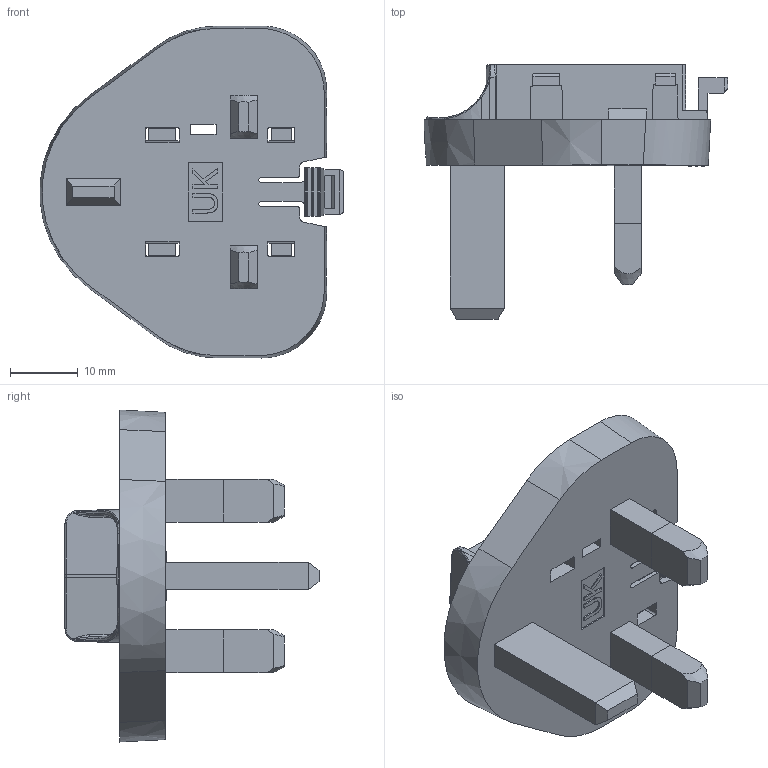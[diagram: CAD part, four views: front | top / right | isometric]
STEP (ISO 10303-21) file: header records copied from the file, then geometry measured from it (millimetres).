
FILE_DESCRIPTION(/* description */ (''),/* implementation_level */ '2;1');
FILE_NAME(/* name */ 'C:\作業區\插頭\5OE0004701H8.stp',/* time_stamp */ '2019-11-06T17:05:31+08:00',/* author */ ('user'),/* organization */ (''),/* preprocessor_version */ 'ST-DEVELOPER v16.1',/* originating_system */ 'Autodesk Inventor 2016',/* authorisation */ '');
FILE_SCHEMA (('AUTOMOTIVE_DESIGN { 1 0 10303 214 3 1 1 }'));
Length unit declared in the file: millimetre
Products named in the file (7): GB-PIN-BASE-120508_9_1_1_1_1_1; GB-PIN-120508_6_1_1_1_1_1; ASM0011_ASM_1_ASM_1_ASM_1_ASM_A_ASM; PRT0026_1_1_1; ASM0025_ASM_1_ASM_1_ASM_1_ASM_A_ASM; ASM0024_ASM_1_ASM_1_ASM_1_ASM_A_ASM; 5OE0004701H8
Assembly tree (7 placements, depth 4):
  5OE0004701H8
    ASM0024_ASM_1_ASM_1_ASM_1_ASM_A_ASM
      ASM0025_ASM_1_ASM_1_ASM_1_ASM_A_ASM
        PRT0026_1_1_1
      ASM0011_ASM_1_ASM_1_ASM_1_ASM_A_ASM
        GB-PIN-BASE-120508_9_1_1_1_1_1
        GB-PIN-120508_6_1_1_1_1_1  x2
Bounding box: 44.82 x 37.5 x 49 mm (x, y, z)
Volume: 8828.6 mm3; surface area: 11604 mm2
Topology: 4 solids, 5 shells, 584 faces, 1621 edges, 1041 vertices
Faces by surface type: plane 402, cylinder 101, bspline 32, cone 29, sphere 14, torus 6
Entity records: 19148 total; most frequent: CARTESIAN_POINT 4920, ORIENTED_EDGE 3057, DIRECTION 2795, EDGE_CURVE 1530, LINE 1157, VECTOR 1157, VERTEX_POINT 989, AXIS2_PLACEMENT_3D 819
